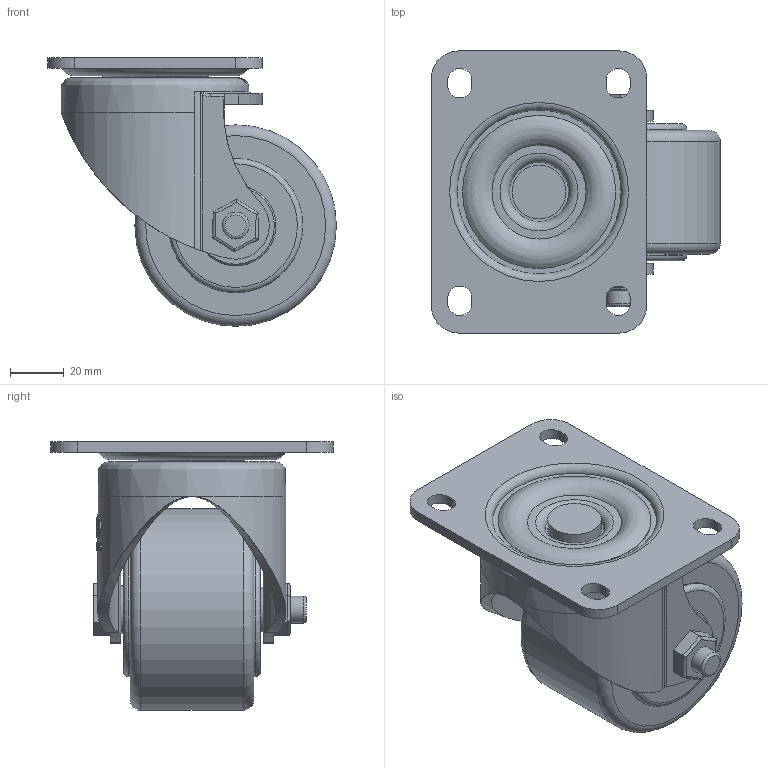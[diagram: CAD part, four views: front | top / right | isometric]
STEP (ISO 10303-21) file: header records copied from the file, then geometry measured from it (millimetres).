
FILE_DESCRIPTION(/* description */ (''),/* implementation_level */ '2;1');
FILE_NAME(/* name */ '30A26_3_F.stp',/* time_stamp */ '2022-10-07T08:14:57+08:00',/* author */ (''),/* organization */ (''),/* preprocessor_version */ 'ST-DEVELOPER v14',/* originating_system */ 'SIEMENS PLM Software NX 8.0',/* authorisation */ '');
FILE_SCHEMA (('AUTOMOTIVE_DESIGN { 1 0 10303 214 3 1 1 1 }'));
Length unit declared in the file: millimetre
Products named in the file (1): 30A26_3_F
Bounding box: 107.5 x 105 x 100 mm (x, y, z)
Volume: 297123.2 mm3; surface area: 71847.9 mm2
Topology: 1 solids, 8 shells, 413 faces, 1138 edges, 756 vertices
Faces by surface type: plane 222, cylinder 108, torus 40, sphere 18, cone 14, bspline 11
Full cylindrical faces by diameter (mm): 10 x5, 10.2 x2, 12.2 x1, 16.667 x2, 18 x2, 20 x1, 23.333 x4, 24.05 x2, 30 x4, 32.2 x1, 50 x2, 57 x1, 62 x1, 75 x1
Entity records: 15085 total; most frequent: CARTESIAN_POINT 5246, DIRECTION 2026, ORIENTED_EDGE 1976, EDGE_CURVE 988, AXIS2_PLACEMENT_3D 830, VERTEX_POINT 706, EDGE_LOOP 536, ADVANCED_FACE 413
